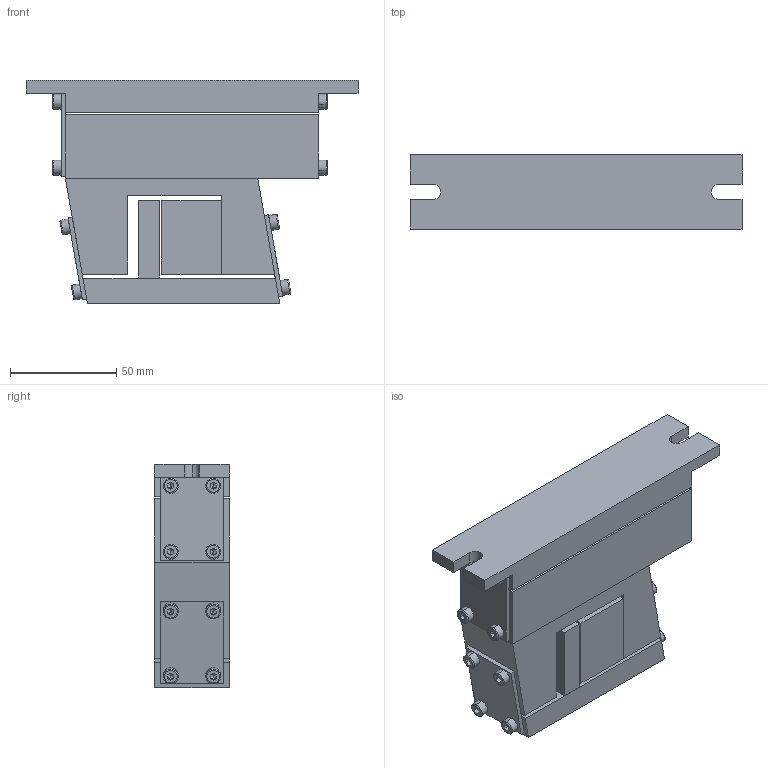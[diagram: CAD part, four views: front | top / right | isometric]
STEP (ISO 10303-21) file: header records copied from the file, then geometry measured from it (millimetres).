
FILE_DESCRIPTION (( 'STEP AP214' ), '1' );
FILE_NAME ('ZA90 Ä£ÐÍ.STEP', '2023-03-01T08:13:46', ( '' ), ( '' ), 'SwSTEP 2.0', 'SolidWorks 2022', '' );
FILE_SCHEMA (( 'AUTOMOTIVE_DESIGN' ));
Length unit declared in the file: millimetre
Products named in the file (1): ZA90 耀倰
Bounding box: 156 x 35 x 104.83 mm (x, y, z)
Volume: 365208.4 mm3; surface area: 89213.4 mm2
Topology: 25 solids, 25 shells, 525 faces, 1211 edges, 738 vertices
Faces by surface type: plane 310, cylinder 119, cone 64, torus 32
Entity records: 20684 total; most frequent: DIRECTION 2693, CARTESIAN_POINT 2443, ORIENTED_EDGE 2358, EDGE_CURVE 1179, AXIS2_PLACEMENT_3D 988, VERTEX_POINT 738, LINE 717, VECTOR 717
